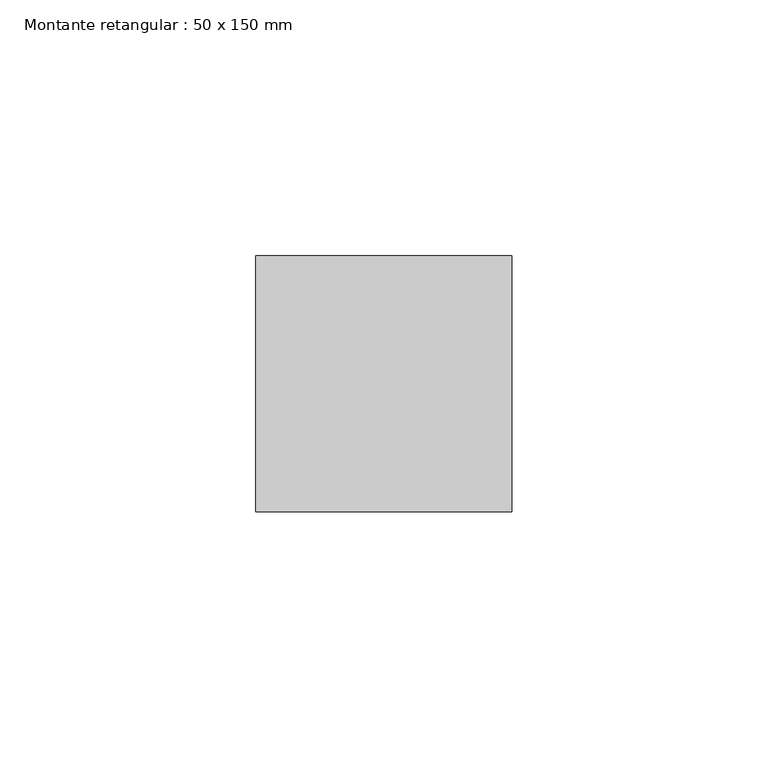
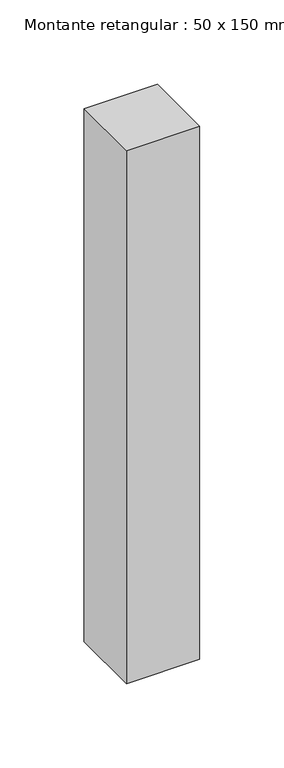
"""IFC4 building model written with IfcOpenShell, lengths in millimetres: member geometry, Montante retangular : 50 x 150 mm."""

from ifc_helpers import new_model, si_unit, frame, origin, place, context, project, spatial, polyline, outline, extrude, source, transform, mapped, element, save


def montante_retangular_50_x_150_mm_a4952fba(model_context):
    return source(origin(), model_context, "Body", "SweptSolid", [
        extrude(outline(polyline([(25.0, 25.0), (25.0, -25.0), (-25.0, -25.0), (-25.0, 25.0), (25.0, 25.0)])), frame((0.0, 0.0, -385.0), z_axis=(0.0, 0.0, 1.0), x_axis=(1.0, 0.0, 0.0)), (0.0, 0.0, 1.0), 385.0),
    ])


if __name__ == "__main__":
    model = new_model("IFC4")
    model_context = context("Model", 3, world=origin())
    ifc_project = project(units=[si_unit("LENGTHUNIT", "METRE", prefix="MILLI")], contexts=[model_context])
    site = spatial("IfcSite", under=ifc_project)
    building = spatial("IfcBuilding", under=site)
    placement = place(None, origin())
    montante_retangular_50_x_150_mm_shape = montante_retangular_50_x_150_mm_a4952fba(model_context)
    element("IfcMember", 1, ObjectType="Montante retangular : 50 x 150 mm", at=placement, inside=building, context=model_context, shape_type="MappedRepresentation", body=[
        mapped(montante_retangular_50_x_150_mm_shape, transform((0.0, 0.0, 0.0), x_axis=(1.0, 0.0, 0.0), y_axis=(0.0, 1.0, 0.0), z_axis=(0.0, 0.0, 1.0))),
    ])
    save(model, "model.ifc")
